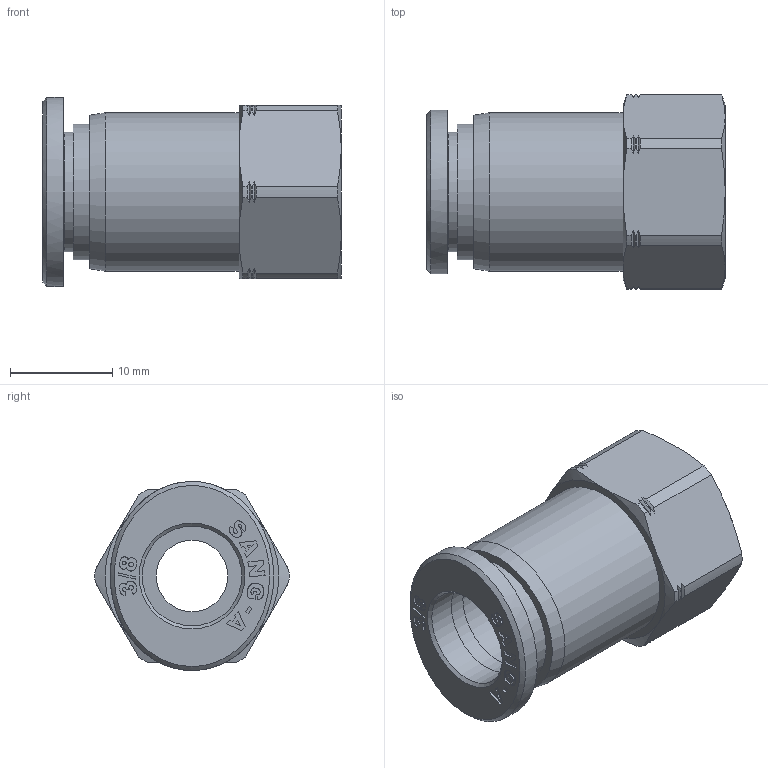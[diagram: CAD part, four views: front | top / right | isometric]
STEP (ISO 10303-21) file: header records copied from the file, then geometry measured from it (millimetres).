
FILE_DESCRIPTION((''),'2;1');
FILE_NAME('C:\Users\user0117\Desktop\김진일\G-FITTING INCH\3-8\카탈로그\G-FITTING INCH (STEP)\GPCF 3_8-R01.stp','2020-04-13T14:54:23',('user0117'),(''),'Autodesk Inventor 2013','Autodesk Inventor 2013','');
FILE_SCHEMA(('AUTOMOTIVE_DESIGN { 1 0 10303 214 1 1 1 1 }'));
Length unit declared in the file: millimetre
Products named in the file (5): GPCF 3_8-R01; GPCF BODY 3_8-R01(BRASS); G-COLLAR 3-8C; COLLAR G3-8C; SLEEVE G3-8
Assembly tree (4 placements, depth 3):
  GPCF 3_8-R01
    GPCF BODY 3_8-R01(BRASS)
    G-COLLAR 3-8C
      COLLAR G3-8C
      SLEEVE G3-8
Bounding box: 29.2 x 19 x 18.49 mm (x, y, z)
Volume: 4052 mm3; surface area: 3160.7 mm2
Topology: 3 solids, 3 shells, 389 faces, 1087 edges, 721 vertices
Faces by surface type: plane 282, cone 41, bspline 37, cylinder 29
Full cylindrical faces by diameter (mm): 7 x1, 9.75 x3, 11.7 x1, 13.3 x1, 15.5 x1
Entity records: 12761 total; most frequent: CARTESIAN_POINT 3069, ORIENTED_EDGE 2136, DIRECTION 1734, EDGE_CURVE 1068, VECTOR 834, LINE 834, VERTEX_POINT 715, AXIS2_PLACEMENT_3D 450
